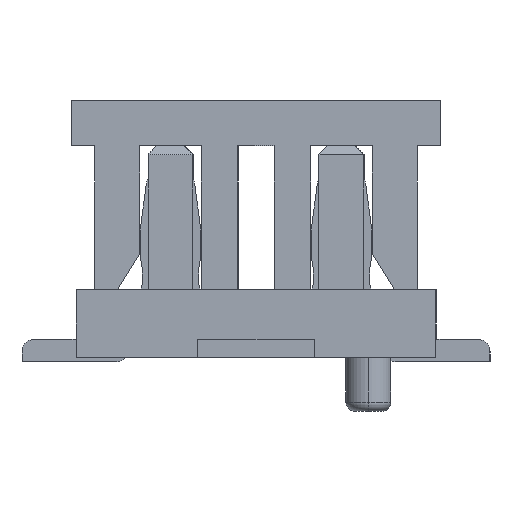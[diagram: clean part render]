
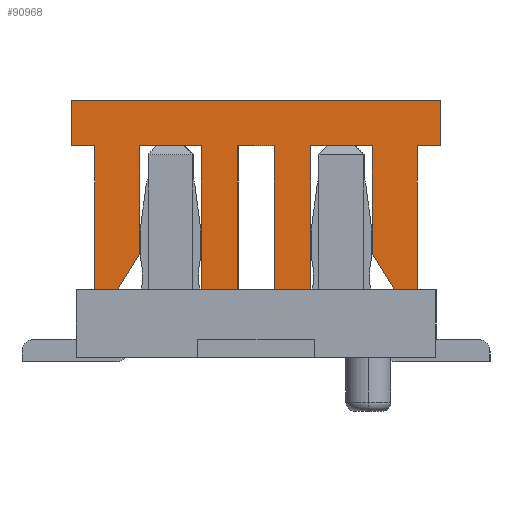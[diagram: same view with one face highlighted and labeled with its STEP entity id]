
A CAD part, left-side view. The second image highlights one B-rep face of the part: STEP entity #90968.
In plain terms, the highlighted planar face has unit normal (-1, 0, 0).
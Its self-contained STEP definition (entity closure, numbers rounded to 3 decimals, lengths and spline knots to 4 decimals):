
#90301=CARTESIAN_POINT('Vertex',(-4.,0.61,0.75)) ;
#90306=CARTESIAN_POINT('Line Origine',(-4.,0.61,1.55)) ;
#90310=CARTESIAN_POINT('Vertex',(-4.,0.61,2.35)) ;
#90337=CARTESIAN_POINT('Line Origine',(-4.,0.95,2.35)) ;
#90341=CARTESIAN_POINT('Vertex',(-4.,1.29,2.35)) ;
#90368=CARTESIAN_POINT('Line Origine',(-4.,1.29,1.75)) ;
#90372=CARTESIAN_POINT('Vertex',(-4.,1.29,1.15)) ;
#90399=CARTESIAN_POINT('Line Origine',(-4.,1.415,0.95)) ;
#90403=CARTESIAN_POINT('Vertex',(-4.,1.54,0.75)) ;
#90430=CARTESIAN_POINT('Line Origine',(-4.,1.665,0.75)) ;
#90434=CARTESIAN_POINT('Vertex',(-4.,1.79,0.75)) ;
#90461=CARTESIAN_POINT('Line Origine',(-4.,1.79,1.55)) ;
#90465=CARTESIAN_POINT('Vertex',(-4.,1.79,2.35)) ;
#90487=CARTESIAN_POINT('Line Origine',(-4.,1.92,2.35)) ;
#90491=CARTESIAN_POINT('Vertex',(-4.,2.05,2.35)) ;
#90518=CARTESIAN_POINT('Line Origine',(-4.,2.05,2.6)) ;
#90522=CARTESIAN_POINT('Vertex',(-4.,2.05,2.85)) ;
#90549=CARTESIAN_POINT('Line Origine',(-4.,0.,2.85)) ;
#90553=CARTESIAN_POINT('Vertex',(-4.,-2.05,2.85)) ;
#90580=CARTESIAN_POINT('Line Origine',(-4.,-2.05,2.6)) ;
#90584=CARTESIAN_POINT('Vertex',(-4.,-2.05,2.35)) ;
#90606=CARTESIAN_POINT('Line Origine',(-4.,-1.92,2.35)) ;
#90610=CARTESIAN_POINT('Vertex',(-4.,-1.79,2.35)) ;
#90637=CARTESIAN_POINT('Line Origine',(-4.,-1.79,1.55)) ;
#90641=CARTESIAN_POINT('Vertex',(-4.,-1.79,0.75)) ;
#90663=CARTESIAN_POINT('Line Origine',(-4.,-1.665,0.75)) ;
#90667=CARTESIAN_POINT('Vertex',(-4.,-1.54,0.75)) ;
#90694=CARTESIAN_POINT('Line Origine',(-4.,-1.415,0.95)) ;
#90698=CARTESIAN_POINT('Vertex',(-4.,-1.29,1.15)) ;
#90725=CARTESIAN_POINT('Line Origine',(-4.,-1.29,1.75)) ;
#90729=CARTESIAN_POINT('Vertex',(-4.,-1.29,2.35)) ;
#90751=CARTESIAN_POINT('Line Origine',(-4.,-0.95,2.35)) ;
#90755=CARTESIAN_POINT('Vertex',(-4.,-0.61,2.35)) ;
#90782=CARTESIAN_POINT('Line Origine',(-4.,-0.61,1.55)) ;
#90786=CARTESIAN_POINT('Vertex',(-4.,-0.61,0.75)) ;
#90808=CARTESIAN_POINT('Line Origine',(-4.,-0.405,0.75)) ;
#90812=CARTESIAN_POINT('Vertex',(-4.,-0.2,0.75)) ;
#90839=CARTESIAN_POINT('Line Origine',(-4.,-0.2,1.55)) ;
#90843=CARTESIAN_POINT('Vertex',(-4.,-0.2,2.35)) ;
#90865=CARTESIAN_POINT('Line Origine',(-4.,0.,2.35)) ;
#90869=CARTESIAN_POINT('Vertex',(-4.,0.2,2.35)) ;
#90896=CARTESIAN_POINT('Line Origine',(-4.,0.2,1.55)) ;
#90900=CARTESIAN_POINT('Vertex',(-4.,0.2,0.75)) ;
#90922=CARTESIAN_POINT('Line Origine',(-4.,0.405,0.75)) ;
#90939=CARTESIAN_POINT('Axis2P3D Location',(-4.,0.,0.)) ;
#90307=DIRECTION('Vector Direction',(0.,0.,1.)) ;
#90338=DIRECTION('Vector Direction',(0.,1.,0.)) ;
#90369=DIRECTION('Vector Direction',(0.,0.,-1.)) ;
#90400=DIRECTION('Vector Direction',(0.,0.53,-0.848)) ;
#90431=DIRECTION('Vector Direction',(0.,1.,0.)) ;
#90462=DIRECTION('Vector Direction',(0.,0.,1.)) ;
#90488=DIRECTION('Vector Direction',(0.,1.,0.)) ;
#90519=DIRECTION('Vector Direction',(0.,0.,1.)) ;
#90550=DIRECTION('Vector Direction',(0.,1.,0.)) ;
#90581=DIRECTION('Vector Direction',(0.,0.,1.)) ;
#90607=DIRECTION('Vector Direction',(0.,-1.,0.)) ;
#90638=DIRECTION('Vector Direction',(0.,0.,1.)) ;
#90664=DIRECTION('Vector Direction',(0.,-1.,0.)) ;
#90695=DIRECTION('Vector Direction',(0.,-0.53,-0.848)) ;
#90726=DIRECTION('Vector Direction',(0.,0.,-1.)) ;
#90752=DIRECTION('Vector Direction',(0.,-1.,0.)) ;
#90783=DIRECTION('Vector Direction',(0.,0.,1.)) ;
#90809=DIRECTION('Vector Direction',(0.,-1.,0.)) ;
#90840=DIRECTION('Vector Direction',(0.,0.,1.)) ;
#90866=DIRECTION('Vector Direction',(0.,1.,0.)) ;
#90897=DIRECTION('Vector Direction',(0.,0.,-1.)) ;
#90923=DIRECTION('Vector Direction',(0.,-1.,0.)) ;
#90940=DIRECTION('Axis2P3D Direction',(1.,0.,0.)) ;
#90941=DIRECTION('Axis2P3D XDirection',(0.,1.,0.)) ;
#90942=AXIS2_PLACEMENT_3D('Plane Axis2P3D',#90939,#90940,#90941) ;
#90945=ORIENTED_EDGE('',*,*,#90926,.F.) ;
#90946=ORIENTED_EDGE('',*,*,#90902,.F.) ;
#90947=ORIENTED_EDGE('',*,*,#90871,.F.) ;
#90948=ORIENTED_EDGE('',*,*,#90845,.F.) ;
#90949=ORIENTED_EDGE('',*,*,#90814,.F.) ;
#90950=ORIENTED_EDGE('',*,*,#90788,.F.) ;
#90951=ORIENTED_EDGE('',*,*,#90757,.F.) ;
#90952=ORIENTED_EDGE('',*,*,#90731,.F.) ;
#90953=ORIENTED_EDGE('',*,*,#90700,.F.) ;
#90954=ORIENTED_EDGE('',*,*,#90669,.F.) ;
#90955=ORIENTED_EDGE('',*,*,#90643,.F.) ;
#90956=ORIENTED_EDGE('',*,*,#90612,.F.) ;
#90957=ORIENTED_EDGE('',*,*,#90586,.F.) ;
#90958=ORIENTED_EDGE('',*,*,#90555,.F.) ;
#90959=ORIENTED_EDGE('',*,*,#90524,.F.) ;
#90960=ORIENTED_EDGE('',*,*,#90493,.F.) ;
#90961=ORIENTED_EDGE('',*,*,#90467,.F.) ;
#90962=ORIENTED_EDGE('',*,*,#90436,.F.) ;
#90963=ORIENTED_EDGE('',*,*,#90405,.F.) ;
#90964=ORIENTED_EDGE('',*,*,#90374,.F.) ;
#90965=ORIENTED_EDGE('',*,*,#90343,.F.) ;
#90966=ORIENTED_EDGE('',*,*,#90312,.F.) ;
#90308=VECTOR('Line Direction',#90307,1.) ;
#90339=VECTOR('Line Direction',#90338,1.) ;
#90370=VECTOR('Line Direction',#90369,1.) ;
#90401=VECTOR('Line Direction',#90400,1.) ;
#90432=VECTOR('Line Direction',#90431,1.) ;
#90463=VECTOR('Line Direction',#90462,1.) ;
#90489=VECTOR('Line Direction',#90488,1.) ;
#90520=VECTOR('Line Direction',#90519,1.) ;
#90551=VECTOR('Line Direction',#90550,1.) ;
#90582=VECTOR('Line Direction',#90581,1.) ;
#90608=VECTOR('Line Direction',#90607,1.) ;
#90639=VECTOR('Line Direction',#90638,1.) ;
#90665=VECTOR('Line Direction',#90664,1.) ;
#90696=VECTOR('Line Direction',#90695,1.) ;
#90727=VECTOR('Line Direction',#90726,1.) ;
#90753=VECTOR('Line Direction',#90752,1.) ;
#90784=VECTOR('Line Direction',#90783,1.) ;
#90810=VECTOR('Line Direction',#90809,1.) ;
#90841=VECTOR('Line Direction',#90840,1.) ;
#90867=VECTOR('Line Direction',#90866,1.) ;
#90898=VECTOR('Line Direction',#90897,1.) ;
#90924=VECTOR('Line Direction',#90923,1.) ;
#90968=ADVANCED_FACE('\X2\76D65B50\X0\',(#90967),#90943,.F.) ;
#90312=EDGE_CURVE('',#90302,#90311,#90309,.T.) ;
#90343=EDGE_CURVE('',#90311,#90342,#90340,.T.) ;
#90374=EDGE_CURVE('',#90342,#90373,#90371,.T.) ;
#90405=EDGE_CURVE('',#90373,#90404,#90402,.T.) ;
#90436=EDGE_CURVE('',#90404,#90435,#90433,.T.) ;
#90467=EDGE_CURVE('',#90435,#90466,#90464,.T.) ;
#90493=EDGE_CURVE('',#90466,#90492,#90490,.T.) ;
#90524=EDGE_CURVE('',#90492,#90523,#90521,.T.) ;
#90555=EDGE_CURVE('',#90523,#90554,#90552,.F.) ;
#90586=EDGE_CURVE('',#90554,#90585,#90583,.F.) ;
#90612=EDGE_CURVE('',#90585,#90611,#90609,.F.) ;
#90643=EDGE_CURVE('',#90611,#90642,#90640,.F.) ;
#90669=EDGE_CURVE('',#90642,#90668,#90666,.F.) ;
#90700=EDGE_CURVE('',#90668,#90699,#90697,.F.) ;
#90731=EDGE_CURVE('',#90699,#90730,#90728,.F.) ;
#90757=EDGE_CURVE('',#90730,#90756,#90754,.F.) ;
#90788=EDGE_CURVE('',#90756,#90787,#90785,.F.) ;
#90814=EDGE_CURVE('',#90787,#90813,#90811,.F.) ;
#90845=EDGE_CURVE('',#90813,#90844,#90842,.T.) ;
#90871=EDGE_CURVE('',#90844,#90870,#90868,.T.) ;
#90902=EDGE_CURVE('',#90870,#90901,#90899,.T.) ;
#90926=EDGE_CURVE('',#90901,#90302,#90925,.F.) ;
#90944=EDGE_LOOP('',(#90945,#90946,#90947,#90948,#90949,#90950,#90951,#90952,#90953,#90954,#90955,#90956,#90957,#90958,#90959,#90960,#90961,#90962,#90963,#90964,#90965,#90966)) ;
#90967=FACE_OUTER_BOUND('',#90944,.T.) ;
#90309=LINE('Line',#90306,#90308) ;
#90340=LINE('Line',#90337,#90339) ;
#90371=LINE('Line',#90368,#90370) ;
#90402=LINE('Line',#90399,#90401) ;
#90433=LINE('Line',#90430,#90432) ;
#90464=LINE('Line',#90461,#90463) ;
#90490=LINE('Line',#90487,#90489) ;
#90521=LINE('Line',#90518,#90520) ;
#90552=LINE('Line',#90549,#90551) ;
#90583=LINE('Line',#90580,#90582) ;
#90609=LINE('Line',#90606,#90608) ;
#90640=LINE('Line',#90637,#90639) ;
#90666=LINE('Line',#90663,#90665) ;
#90697=LINE('Line',#90694,#90696) ;
#90728=LINE('Line',#90725,#90727) ;
#90754=LINE('Line',#90751,#90753) ;
#90785=LINE('Line',#90782,#90784) ;
#90811=LINE('Line',#90808,#90810) ;
#90842=LINE('Line',#90839,#90841) ;
#90868=LINE('Line',#90865,#90867) ;
#90899=LINE('Line',#90896,#90898) ;
#90925=LINE('Line',#90922,#90924) ;
#90943=PLANE('Plane',#90942) ;
#90302=VERTEX_POINT('',#90301) ;
#90311=VERTEX_POINT('',#90310) ;
#90342=VERTEX_POINT('',#90341) ;
#90373=VERTEX_POINT('',#90372) ;
#90404=VERTEX_POINT('',#90403) ;
#90435=VERTEX_POINT('',#90434) ;
#90466=VERTEX_POINT('',#90465) ;
#90492=VERTEX_POINT('',#90491) ;
#90523=VERTEX_POINT('',#90522) ;
#90554=VERTEX_POINT('',#90553) ;
#90585=VERTEX_POINT('',#90584) ;
#90611=VERTEX_POINT('',#90610) ;
#90642=VERTEX_POINT('',#90641) ;
#90668=VERTEX_POINT('',#90667) ;
#90699=VERTEX_POINT('',#90698) ;
#90730=VERTEX_POINT('',#90729) ;
#90756=VERTEX_POINT('',#90755) ;
#90787=VERTEX_POINT('',#90786) ;
#90813=VERTEX_POINT('',#90812) ;
#90844=VERTEX_POINT('',#90843) ;
#90870=VERTEX_POINT('',#90869) ;
#90901=VERTEX_POINT('',#90900) ;
